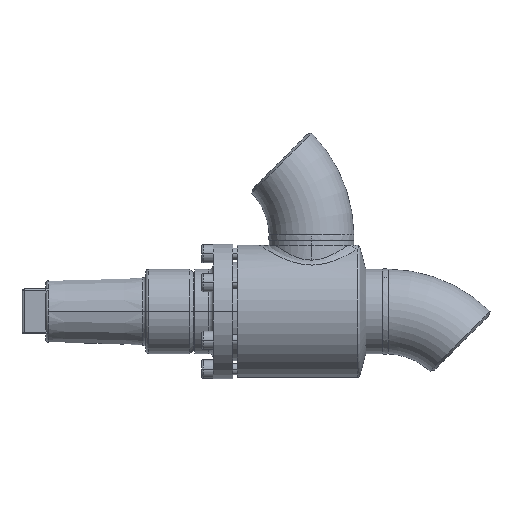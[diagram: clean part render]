
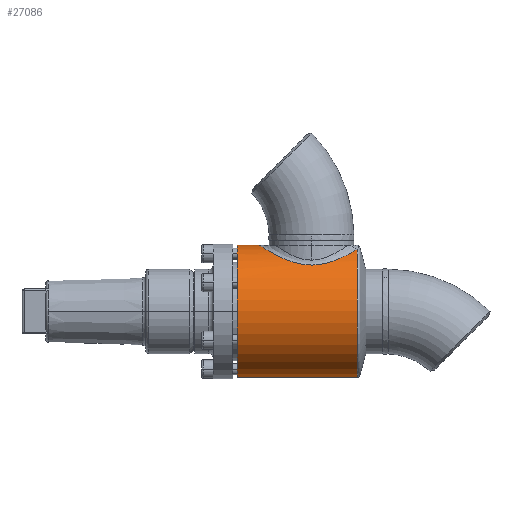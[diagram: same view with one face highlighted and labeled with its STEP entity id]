
A CAD part, left-side view. The second image highlights one B-rep face of the part: STEP entity #27086.
In plain terms, the highlighted cylindrical face has radius 47 mm (diameter 94 mm), a partial arc.
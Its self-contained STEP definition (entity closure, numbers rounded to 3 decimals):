
#16452 = CIRCLE ( 'NONE', #16453, 47. ) ;
#16453 = AXIS2_PLACEMENT_3D ( 'NONE', #16454, #16455, #16456 ) ;
#16454 = CARTESIAN_POINT ( 'NONE',  ( 0., 0., 0. ) ) ;
#16455 = DIRECTION ( 'NONE',  ( 0., 1., 0. ) ) ;
#16456 = DIRECTION ( 'NONE',  ( 0., 0., 1. ) ) ;
#33201 = VERTEX_POINT ( 'NONE', #30056 ) ;
#33614 = EDGE_CURVE ( 'NONE', #9781, #33201, #30549, .T. ) ;
#18022 = FACE_OUTER_BOUND ( 'NONE', #26647, .T. ) ;
#18040 = CYLINDRICAL_SURFACE ( 'NONE', #18041, 47. ) ;
#18041 = AXIS2_PLACEMENT_3D ( 'NONE', #18042, #18043, #18044 ) ;
#18042 = CARTESIAN_POINT ( 'NONE',  ( 0., -91., 0. ) ) ;
#18043 = DIRECTION ( 'NONE',  ( 0., 1., 0. ) ) ;
#18044 = DIRECTION ( 'NONE',  ( 0., 0., 1. ) ) ;
#18732 = VERTEX_POINT ( 'NONE', #14171 ) ;
#19415 = ORIENTED_EDGE ( 'NONE', *, *, #20630, .F. ) ;
#20130 = CIRCLE ( 'NONE', #20131, 47. ) ;
#20131 = AXIS2_PLACEMENT_3D ( 'NONE', #20132, #20133, #20134 ) ;
#20132 = CARTESIAN_POINT ( 'NONE',  ( 0., -85.446, 0. ) ) ;
#20133 = DIRECTION ( 'NONE',  ( 0., 1., 0. ) ) ;
#20134 = DIRECTION ( 'NONE',  ( 0., 0., -1. ) ) ;
#20360 = ORIENTED_EDGE ( 'NONE', *, *, #25087, .T. ) ;
#20630 = EDGE_CURVE ( 'NONE', #33201, #26715, #16452, .T. ) ;
#4458 = CARTESIAN_POINT ( 'NONE',  ( 0., -85.446, -47. ) ) ;
#4737 = LINE ( 'NONE', #4738, #4739 ) ;
#4738 = CARTESIAN_POINT ( 'NONE',  ( 0., -91., 47. ) ) ;
#4739 = VECTOR ( 'NONE', #4740, 1000. ) ;
#4740 = DIRECTION ( 'NONE',  ( 0., 1., 0. ) ) ;
#23133 = ORIENTED_EDGE ( 'NONE', *, *, #15403, .T. ) ;
#7113 = CARTESIAN_POINT ( 'NONE',  ( 0., 0., 47. ) ) ;
#23771 = EDGE_CURVE ( 'NONE', #9781, #18732, #20130, .T. ) ;
#24442 = ORIENTED_EDGE ( 'NONE', *, *, #23771, .T. ) ;
#24677 = VERTEX_POINT ( 'NONE', #30369 ) ;
#25087 = EDGE_CURVE ( 'NONE', #24677, #26715, #4737, .T. ) ;
#25393 = ORIENTED_EDGE ( 'NONE', *, *, #33614, .F. ) ;
#9781 = VERTEX_POINT ( 'NONE', #4458 ) ;
#26647 = EDGE_LOOP ( 'NONE', ( #25393, #24442, #23133, #20360, #19415 ) ) ;
#26715 = VERTEX_POINT ( 'NONE', #7113 ) ;
#27086 = ADVANCED_FACE ( 'NONE', ( #18022 ), #18040, .T. ) ;
#30056 = CARTESIAN_POINT ( 'NONE',  ( 0., 0., -47. ) ) ;
#30223 = B_SPLINE_CURVE_WITH_KNOTS ( 'NONE', 3,
 ( #30224, #30225, #30226, #30227, #30228, #30229, #30230, #30231, #30232, #30233, #30234, #30235, #30236, #30257, #30258, #30259, #30260, #30261, #30262, #30263, #30264, #30265, #30266, #30267, #30268, #30269, #30270, #30271, #30272, #30289, #30290, #30291, #30292, #30293, #30294, #30295, #30296, #30297, #30298, #30299, #30300, #30301, #30302, #30303, #30304, #30324, #30325, #30326, #30327, #30328, #30329, #30330, #30331, #30332, #30333, #30334, #30335, #30336, #30337, #30338, #30339, #30359 ),
 .UNSPECIFIED., .F., .F.,
 ( 4, 2, 2, 2, 2, 2, 2, 2, 2, 2, 2, 2, 2, 2, 2, 2, 2, 2, 2, 2, 2, 2, 2, 2, 2, 2, 2, 2, 2, 2, 4 ),
 ( 0.017, 0.023, 0.026, 0.029, 0.035, 0.039, 0.04, 0.042, 0.048, 0.051, 0.052, 0.054, 0.06, 0.063, 0.066, 0.069, 0.072, 0.078, 0.081, 0.083, 0.084, 0.09, 0.093, 0.095, 0.096, 0.103, 0.106, 0.107, 0.109, 0.112, 0.115 ),
 .UNSPECIFIED. ) ;
#30224 = CARTESIAN_POINT ( 'NONE',  ( -16.073, -85.446, 44.166 ) ) ;
#30225 = CARTESIAN_POINT ( 'NONE',  ( -17.749, -84.43, 43.556 ) ) ;
#30226 = CARTESIAN_POINT ( 'NONE',  ( -19.293, -83.29, 42.887 ) ) ;
#30227 = CARTESIAN_POINT ( 'NONE',  ( -21.444, -81.41, 41.831 ) ) ;
#30228 = CARTESIAN_POINT ( 'NONE',  ( -22.133, -80.755, 41.469 ) ) ;
#30229 = CARTESIAN_POINT ( 'NONE',  ( -23.459, -79.389, 40.734 ) ) ;
#30230 = CARTESIAN_POINT ( 'NONE',  ( -24.096, -78.676, 40.359 ) ) ;
#30231 = CARTESIAN_POINT ( 'NONE',  ( -25.907, -76.48, 39.24 ) ) ;
#30232 = CARTESIAN_POINT ( 'NONE',  ( -26.989, -74.936, 38.497 ) ) ;
#30233 = CARTESIAN_POINT ( 'NONE',  ( -28.44, -72.491, 37.424 ) ) ;
#30234 = CARTESIAN_POINT ( 'NONE',  ( -28.894, -71.655, 37.073 ) ) ;
#30235 = CARTESIAN_POINT ( 'NONE',  ( -29.533, -70.366, 36.563 ) ) ;
#30236 = CARTESIAN_POINT ( 'NONE',  ( -29.739, -69.93, 36.396 ) ) ;
#30257 = CARTESIAN_POINT ( 'NONE',  ( -30.137, -69.047, 36.067 ) ) ;
#30258 = CARTESIAN_POINT ( 'NONE',  ( -30.328, -68.599, 35.906 ) ) ;
#30259 = CARTESIAN_POINT ( 'NONE',  ( -31.243, -66.344, 35.126 ) ) ;
#30260 = CARTESIAN_POINT ( 'NONE',  ( -31.842, -64.482, 34.576 ) ) ;
#30261 = CARTESIAN_POINT ( 'NONE',  ( -32.541, -61.591, 33.914 ) ) ;
#30262 = CARTESIAN_POINT ( 'NONE',  ( -32.74, -60.61, 33.721 ) ) ;
#30263 = CARTESIAN_POINT ( 'NONE',  ( -32.986, -59.111, 33.48 ) ) ;
#30264 = CARTESIAN_POINT ( 'NONE',  ( -33.059, -58.608, 33.408 ) ) ;
#30265 = CARTESIAN_POINT ( 'NONE',  ( -33.186, -57.603, 33.282 ) ) ;
#30266 = CARTESIAN_POINT ( 'NONE',  ( -33.239, -57.1, 33.229 ) ) ;
#30267 = CARTESIAN_POINT ( 'NONE',  ( -33.462, -54.583, 33.006 ) ) ;
#30268 = CARTESIAN_POINT ( 'NONE',  ( -33.49, -52.562, 32.976 ) ) ;
#30269 = CARTESIAN_POINT ( 'NONE',  ( -33.307, -49.52, 33.161 ) ) ;
#30270 = CARTESIAN_POINT ( 'NONE',  ( -33.207, -48.498, 33.262 ) ) ;
#30271 = CARTESIAN_POINT ( 'NONE',  ( -32.933, -46.49, 33.532 ) ) ;
#30272 = CARTESIAN_POINT ( 'NONE',  ( -32.761, -45.501, 33.702 ) ) ;
#30289 = CARTESIAN_POINT ( 'NONE',  ( -32.346, -43.55, 34.1 ) ) ;
#30290 = CARTESIAN_POINT ( 'NONE',  ( -32.103, -42.587, 34.33 ) ) ;
#30291 = CARTESIAN_POINT ( 'NONE',  ( -31.549, -40.688, 34.839 ) ) ;
#30292 = CARTESIAN_POINT ( 'NONE',  ( -31.237, -39.749, 35.121 ) ) ;
#30293 = CARTESIAN_POINT ( 'NONE',  ( -30.211, -37.009, 36.016 ) ) ;
#30294 = CARTESIAN_POINT ( 'NONE',  ( -29.406, -35.272, 36.683 ) ) ;
#30295 = CARTESIAN_POINT ( 'NONE',  ( -28.021, -32.781, 37.738 ) ) ;
#30296 = CARTESIAN_POINT ( 'NONE',  ( -27.529, -31.97, 38.099 ) ) ;
#30297 = CARTESIAN_POINT ( 'NONE',  ( -26.744, -30.781, 38.65 ) ) ;
#30298 = CARTESIAN_POINT ( 'NONE',  ( -26.475, -30.389, 38.835 ) ) ;
#30299 = CARTESIAN_POINT ( 'NONE',  ( -25.92, -29.615, 39.208 ) ) ;
#30300 = CARTESIAN_POINT ( 'NONE',  ( -25.634, -29.233, 39.396 ) ) ;
#30301 = CARTESIAN_POINT ( 'NONE',  ( -24.175, -27.357, 40.33 ) ) ;
#30302 = CARTESIAN_POINT ( 'NONE',  ( -22.902, -25.964, 41.072 ) ) ;
#30303 = CARTESIAN_POINT ( 'NONE',  ( -20.822, -24.029, 42.143 ) ) ;
#30304 = CARTESIAN_POINT ( 'NONE',  ( -20.099, -23.411, 42.494 ) ) ;
#30324 = CARTESIAN_POINT ( 'NONE',  ( -18.969, -22.523, 43.004 ) ) ;
#30325 = CARTESIAN_POINT ( 'NONE',  ( -18.584, -22.235, 43.172 ) ) ;
#30326 = CARTESIAN_POINT ( 'NONE',  ( -17.798, -21.671, 43.502 ) ) ;
#30327 = CARTESIAN_POINT ( 'NONE',  ( -17.396, -21.396, 43.664 ) ) ;
#30328 = CARTESIAN_POINT ( 'NONE',  ( -15.356, -20.064, 44.455 ) ) ;
#30329 = CARTESIAN_POINT ( 'NONE',  ( -13.635, -19.147, 45.018 ) ) ;
#30330 = CARTESIAN_POINT ( 'NONE',  ( -10.906, -18.006, 45.727 ) ) ;
#30331 = CARTESIAN_POINT ( 'NONE',  ( -9.972, -17.666, 45.94 ) ) ;
#30332 = CARTESIAN_POINT ( 'NONE',  ( -8.53, -17.219, 46.222 ) ) ;
#30333 = CARTESIAN_POINT ( 'NONE',  ( -8.041, -17.081, 46.31 ) ) ;
#30334 = CARTESIAN_POINT ( 'NONE',  ( -7.058, -16.829, 46.47 ) ) ;
#30335 = CARTESIAN_POINT ( 'NONE',  ( -6.563, -16.715, 46.542 ) ) ;
#30336 = CARTESIAN_POINT ( 'NONE',  ( -5.066, -16.41, 46.737 ) ) ;
#30337 = CARTESIAN_POINT ( 'NONE',  ( -4.049, -16.255, 46.836 ) ) ;
#30338 = CARTESIAN_POINT ( 'NONE',  ( -2.024, -16.051, 46.967 ) ) ;
#30339 = CARTESIAN_POINT ( 'NONE',  ( -1.011, -16., 47. ) ) ;
#30359 = CARTESIAN_POINT ( 'NONE',  ( 0., -16., 47. ) ) ;
#30369 = CARTESIAN_POINT ( 'NONE',  ( 0., -16., 47. ) ) ;
#14171 = CARTESIAN_POINT ( 'NONE',  ( -16.073, -85.446, 44.166 ) ) ;
#30549 = LINE ( 'NONE', #30566, #30567 ) ;
#30566 = CARTESIAN_POINT ( 'NONE',  ( 0., -91., -47. ) ) ;
#30567 = VECTOR ( 'NONE', #30568, 1000. ) ;
#30568 = DIRECTION ( 'NONE',  ( 0., 1., 0. ) ) ;
#15403 = EDGE_CURVE ( 'NONE', #18732, #24677, #30223, .T. ) ;
